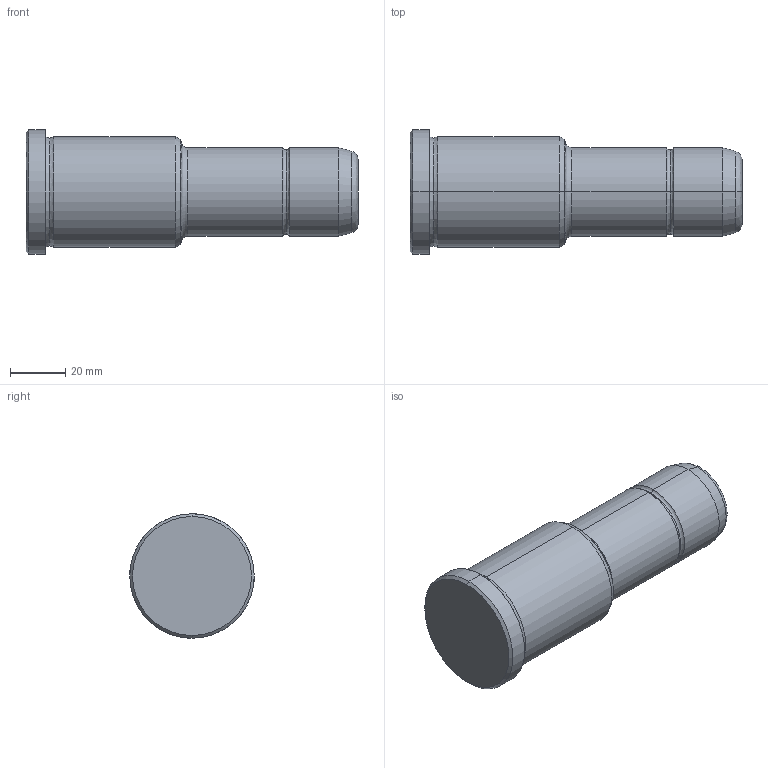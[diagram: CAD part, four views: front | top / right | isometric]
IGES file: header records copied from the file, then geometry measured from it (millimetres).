
Start section: START RECORD GO HERE.
Global section: file name: 351-32X56X120.igs; native system: DASSAULT SYSTEMES CATIA V5 R20 - www.3ds.com; preprocessor: CATIA Version 5 Release 20 ; author: Utente; organization: NB04-ASUS; date: 20210907.143757; units: millimetre
Bounding box: 120 x 45 x 45 mm (x, y, z)
Surface area: 16278.8 mm2 (no closed solid volume)
Topology: 0 solids, 0 shells, 30 faces, 172 edges, 172 vertices
Faces by surface type: revolution 26, plane 4
